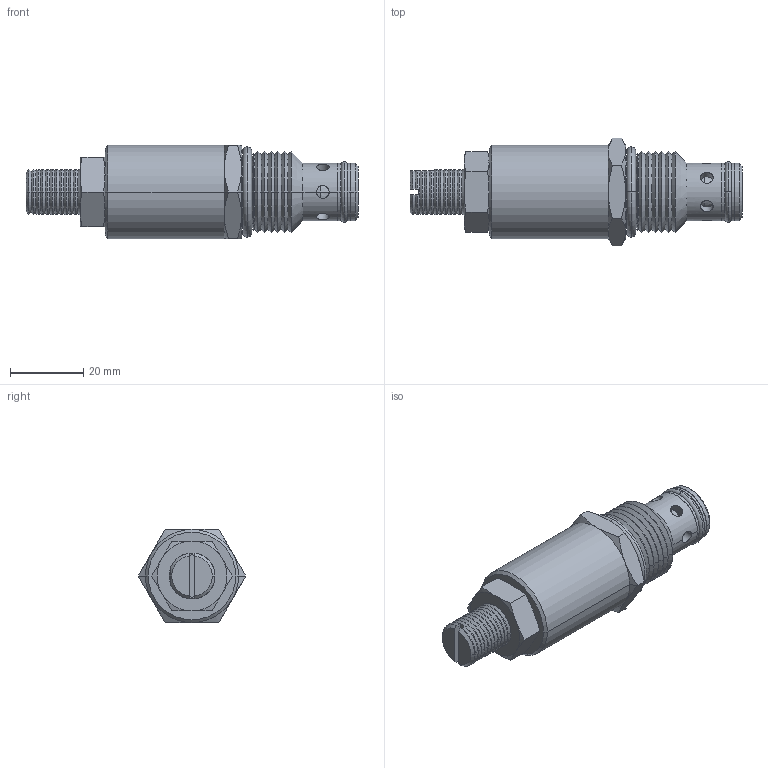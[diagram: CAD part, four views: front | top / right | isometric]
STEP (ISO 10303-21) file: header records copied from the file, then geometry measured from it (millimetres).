
FILE_DESCRIPTION((''),'2;1');
FILE_NAME('U:\Solid model CD\Solid model full\Mechanical\STEP\DENVB00-3D Full.stp','2008-07-28T16:11:43',('Dan'),(''),'Autodesk Inventor 9','Autodesk Inventor 9','');
FILE_SCHEMA(('AUTOMOTIVE_DESIGN { 1 0 10303 214 1 1 1 1 }'));
Length unit declared in the file: inch
Products named in the file (6): DENVB00-3D Full; DENVB00-3D Full1; DENVB00-3D Full2; DENVB00-3D Full3; DENVB00-3D Full4; DENVB00-3D Full5
Assembly tree (5 placements, depth 2):
  DENVB00-3D Full
    DENVB00-3D Full1
    DENVB00-3D Full2
    DENVB00-3D Full3
    DENVB00-3D Full4
    DENVB00-3D Full5
Bounding box: 90.57 x 29.33 x 25.4 mm (x, y, z)
Volume: 31066.2 mm3; surface area: 9267.9 mm2
Topology: 5 solids, 5 shells, 196 faces, 439 edges, 253 vertices
Faces by surface type: cone 116, cylinder 36, plane 36, torus 8
Entity records: 5828 total; most frequent: CARTESIAN_POINT 1487, DIRECTION 917, ORIENTED_EDGE 878, EDGE_CURVE 439, AXIS2_PLACEMENT_3D 391, VERTEX_POINT 253, EDGE_LOOP 216, FACE_OUTER_BOUND 196
